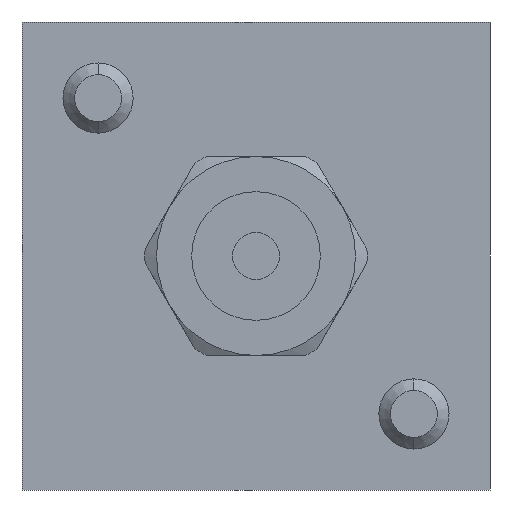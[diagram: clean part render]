
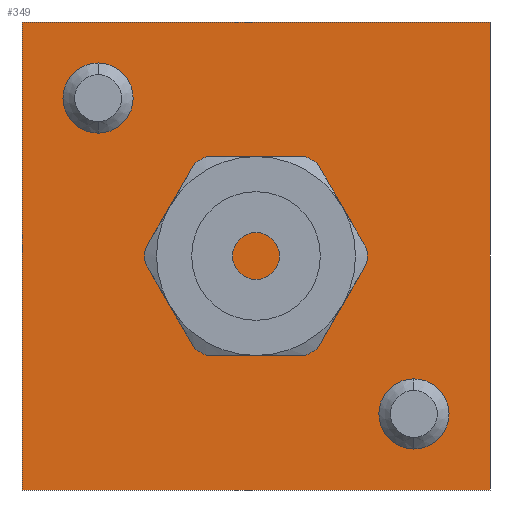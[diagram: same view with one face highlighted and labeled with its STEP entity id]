
A CAD part, left-side view. The second image highlights one B-rep face of the part: STEP entity #349.
In plain terms, the highlighted planar face has unit normal (-1, 0, 0).
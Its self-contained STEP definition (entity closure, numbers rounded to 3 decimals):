
#3 = VERTEX_POINT ( 'NONE', #1123 ) ;
#4 = VERTEX_POINT ( 'NONE', #1122 ) ;
#277 = EDGE_CURVE ( 'NONE', #278, #279, #1565, .T. ) ;
#278 = VERTEX_POINT ( 'NONE', #1561 ) ;
#279 = VERTEX_POINT ( 'NONE', #1560 ) ;
#280 = ORIENTED_EDGE ( 'NONE', *, *, #281, .F. ) ;
#281 = EDGE_CURVE ( 'NONE', #282, #279, #1559, .T. ) ;
#282 = VERTEX_POINT ( 'NONE', #1555 ) ;
#283 = ORIENTED_EDGE ( 'NONE', *, *, #284, .F. ) ;
#284 = EDGE_CURVE ( 'NONE', #336, #282, #1554, .T. ) ;
#297 = EDGE_LOOP ( 'NONE', ( #350, #351 ) ) ;
#336 = VERTEX_POINT ( 'NONE', #1647 ) ;
#337 = ORIENTED_EDGE ( 'NONE', *, *, #338, .T. ) ;
#338 = EDGE_CURVE ( 'NONE', #336, #278, #1646, .T. ) ;
#339 = EDGE_LOOP ( 'NONE', ( #340, #341 ) ) ;
#340 = ORIENTED_EDGE ( 'NONE', *, *, #3174, .F. ) ;
#341 = ORIENTED_EDGE ( 'NONE', *, *, #342, .F. ) ;
#342 = EDGE_CURVE ( 'NONE', #4, #3, #1641, .T. ) ;
#349 = ADVANCED_FACE ( 'NONE', ( #1689, #1688, #1687 ), #1686, .F. ) ;
#350 = ORIENTED_EDGE ( 'NONE', *, *, #3198, .F. ) ;
#351 = ORIENTED_EDGE ( 'NONE', *, *, #352, .F. ) ;
#352 = EDGE_CURVE ( 'NONE', #3192, #3194, #1684, .T. ) ;
#353 = EDGE_LOOP ( 'NONE', ( #354, #280, #283, #337 ) ) ;
#354 = ORIENTED_EDGE ( 'NONE', *, *, #277, .T. ) ;
#1122 = CARTESIAN_POINT ( 'NONE',  ( 0., -6.5, 10.5 ) ) ;
#1123 = CARTESIAN_POINT ( 'NONE',  ( 0., -6.5, 16.5 ) ) ;
#1551 = DIRECTION ( 'NONE',  ( 0., 0., -1. ) ) ;
#1552 = VECTOR ( 'NONE', #1551, 1000. ) ;
#1553 = CARTESIAN_POINT ( 'NONE',  ( 0., -40., 20. ) ) ;
#1554 = LINE ( 'NONE', #1553, #1552 ) ;
#1555 = CARTESIAN_POINT ( 'NONE',  ( 0., -40., -20. ) ) ;
#1556 = DIRECTION ( 'NONE',  ( 0., 1., 0. ) ) ;
#1557 = VECTOR ( 'NONE', #1556, 1000. ) ;
#1558 = CARTESIAN_POINT ( 'NONE',  ( 0., -40., -20. ) ) ;
#1559 = LINE ( 'NONE', #1558, #1557 ) ;
#1560 = CARTESIAN_POINT ( 'NONE',  ( 0., 0., -20. ) ) ;
#1561 = CARTESIAN_POINT ( 'NONE',  ( 0., 0., 20. ) ) ;
#1562 = DIRECTION ( 'NONE',  ( 0., 0., -1. ) ) ;
#1563 = VECTOR ( 'NONE', #1562, 1000. ) ;
#1564 = CARTESIAN_POINT ( 'NONE',  ( 0., 0., 20. ) ) ;
#1565 = LINE ( 'NONE', #1564, #1563 ) ;
#1637 = DIRECTION ( 'NONE',  ( 0., 0., -1. ) ) ;
#1638 = DIRECTION ( 'NONE',  ( -1., 0., 0. ) ) ;
#1639 = CARTESIAN_POINT ( 'NONE',  ( 0., -6.5, 13.5 ) ) ;
#1640 = AXIS2_PLACEMENT_3D ( 'NONE', #1639, #1638, #1637 ) ;
#1641 = CIRCLE ( 'NONE', #1640, 3. ) ;
#1643 = DIRECTION ( 'NONE',  ( 0., 1., 0. ) ) ;
#1644 = VECTOR ( 'NONE', #1643, 1000. ) ;
#1645 = CARTESIAN_POINT ( 'NONE',  ( 0., -40., 20. ) ) ;
#1646 = LINE ( 'NONE', #1645, #1644 ) ;
#1647 = CARTESIAN_POINT ( 'NONE',  ( 0., -40., 20. ) ) ;
#1677 = DIRECTION ( 'NONE',  ( 0., 0., -1. ) ) ;
#1678 = DIRECTION ( 'NONE',  ( -1., 0., 0. ) ) ;
#1679 = CARTESIAN_POINT ( 'NONE',  ( 0., -33.5, -13.5 ) ) ;
#1680 = AXIS2_PLACEMENT_3D ( 'NONE', #1679, #1678, #1677 ) ;
#1681 = DIRECTION ( 'NONE',  ( 0., 0., -1. ) ) ;
#1682 = DIRECTION ( 'NONE',  ( 1., 0., 0. ) ) ;
#1683 = CARTESIAN_POINT ( 'NONE',  ( 0., -40., 20. ) ) ;
#1684 = CIRCLE ( 'NONE', #1680, 3. ) ;
#1685 = AXIS2_PLACEMENT_3D ( 'NONE', #1683, #1682, #1681 ) ;
#1686 = PLANE ( 'NONE',  #1685 ) ;
#1687 = FACE_BOUND ( 'NONE', #339, .T. ) ;
#1688 = FACE_OUTER_BOUND ( 'NONE', #353, .T. ) ;
#1689 = FACE_BOUND ( 'NONE', #297, .T. ) ;
#2968 = DIRECTION ( 'NONE',  ( 0., 0., -1. ) ) ;
#2969 = DIRECTION ( 'NONE',  ( -1., 0., 0. ) ) ;
#2970 = CARTESIAN_POINT ( 'NONE',  ( 0., -6.5, 13.5 ) ) ;
#2971 = AXIS2_PLACEMENT_3D ( 'NONE', #2970, #2969, #2968 ) ;
#2972 = CIRCLE ( 'NONE', #2971, 3. ) ;
#3035 = DIRECTION ( 'NONE',  ( 0., 0., -1. ) ) ;
#3036 = DIRECTION ( 'NONE',  ( -1., 0., 0. ) ) ;
#3037 = CARTESIAN_POINT ( 'NONE',  ( 0., -33.5, -13.5 ) ) ;
#3038 = AXIS2_PLACEMENT_3D ( 'NONE', #3037, #3036, #3035 ) ;
#3039 = CIRCLE ( 'NONE', #3038, 3. ) ;
#3045 = CARTESIAN_POINT ( 'NONE',  ( 0., -33.5, -10.5 ) ) ;
#3046 = CARTESIAN_POINT ( 'NONE',  ( 0., -33.5, -16.5 ) ) ;
#3174 = EDGE_CURVE ( 'NONE', #3, #4, #2972, .T. ) ;
#3192 = VERTEX_POINT ( 'NONE', #3046 ) ;
#3194 = VERTEX_POINT ( 'NONE', #3045 ) ;
#3198 = EDGE_CURVE ( 'NONE', #3194, #3192, #3039, .T. ) ;
